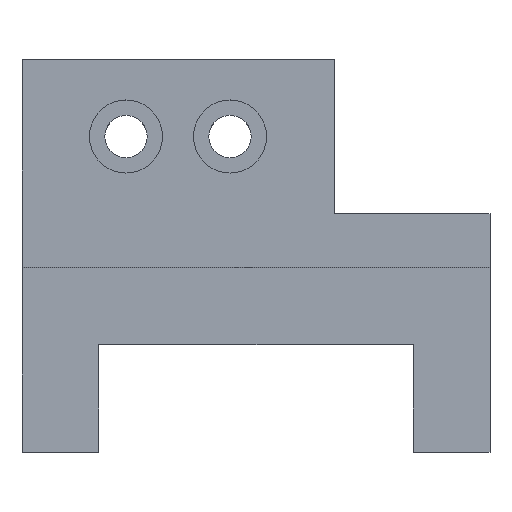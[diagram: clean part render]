
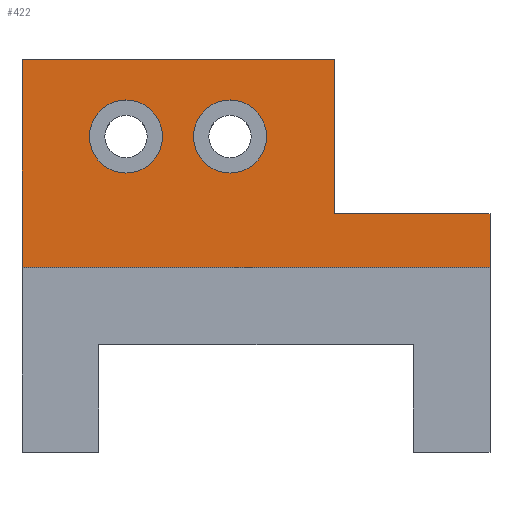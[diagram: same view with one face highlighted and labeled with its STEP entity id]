
A CAD part, top view. The second image highlights one B-rep face of the part: STEP entity #422.
In plain terms, the highlighted planar face has unit normal (0, 0, 1).
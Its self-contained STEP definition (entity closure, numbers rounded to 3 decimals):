
#17=FACE_BOUND('',#75,.T.);
#18=FACE_BOUND('',#76,.T.);
#28=PLANE('',#467);
#49=FACE_OUTER_BOUND('',#74,.T.);
#74=EDGE_LOOP('',(#319,#320,#321,#322,#323,#324));
#75=EDGE_LOOP('',(#325));
#76=EDGE_LOOP('',(#326));
#102=LINE('',#634,#147);
#106=LINE('',#642,#151);
#107=LINE('',#644,#152);
#108=LINE('',#646,#153);
#109=LINE('',#648,#154);
#110=LINE('',#649,#155);
#147=VECTOR('',#523,10.);
#151=VECTOR('',#529,10.);
#152=VECTOR('',#530,10.);
#153=VECTOR('',#531,10.);
#154=VECTOR('',#532,10.);
#155=VECTOR('',#533,10.);
#188=CIRCLE('',#453,4.75);
#191=CIRCLE('',#458,4.75);
#200=VERTEX_POINT('',#606);
#203=VERTEX_POINT('',#615);
#208=VERTEX_POINT('',#632);
#209=VERTEX_POINT('',#633);
#212=VERTEX_POINT('',#641);
#213=VERTEX_POINT('',#643);
#214=VERTEX_POINT('',#645);
#215=VERTEX_POINT('',#647);
#238=EDGE_CURVE('',#200,#200,#188,.T.);
#242=EDGE_CURVE('',#203,#203,#191,.T.);
#250=EDGE_CURVE('',#208,#209,#102,.T.);
#254=EDGE_CURVE('',#212,#208,#106,.T.);
#255=EDGE_CURVE('',#213,#209,#107,.T.);
#256=EDGE_CURVE('',#214,#213,#108,.T.);
#257=EDGE_CURVE('',#214,#215,#109,.T.);
#258=EDGE_CURVE('',#215,#212,#110,.T.);
#319=ORIENTED_EDGE('',*,*,#254,.T.);
#320=ORIENTED_EDGE('',*,*,#250,.T.);
#321=ORIENTED_EDGE('',*,*,#255,.F.);
#322=ORIENTED_EDGE('',*,*,#256,.F.);
#323=ORIENTED_EDGE('',*,*,#257,.T.);
#324=ORIENTED_EDGE('',*,*,#258,.T.);
#325=ORIENTED_EDGE('',*,*,#238,.T.);
#326=ORIENTED_EDGE('',*,*,#242,.T.);
#422=ADVANCED_FACE('',(#49,#17,#18),#28,.T.);
#453=AXIS2_PLACEMENT_3D('',#607,#491,#492);
#458=AXIS2_PLACEMENT_3D('',#616,#502,#503);
#467=AXIS2_PLACEMENT_3D('',#640,#527,#528);
#491=DIRECTION('center_axis',(0.,0.,-1.));
#492=DIRECTION('ref_axis',(1.,0.,0.));
#502=DIRECTION('center_axis',(0.,0.,-1.));
#503=DIRECTION('ref_axis',(1.,0.,0.));
#523=DIRECTION('',(0.,1.,0.));
#527=DIRECTION('center_axis',(0.,0.,1.));
#528=DIRECTION('ref_axis',(1.,0.,0.));
#529=DIRECTION('',(-1.,0.,0.));
#530=DIRECTION('',(1.,0.,0.));
#531=DIRECTION('',(0.,1.,0.));
#532=DIRECTION('',(1.,0.,0.));
#533=DIRECTION('',(0.,1.,0.));
#606=CARTESIAN_POINT('',(-21.64,41.,19.));
#607=CARTESIAN_POINT('Origin',(-16.89,41.,19.));
#615=CARTESIAN_POINT('',(-8.127,41.,19.));
#616=CARTESIAN_POINT('Origin',(-3.377,41.,19.));
#632=CARTESIAN_POINT('',(10.133,31.,19.));
#633=CARTESIAN_POINT('',(10.133,51.,19.));
#634=CARTESIAN_POINT('',(10.133,39.25,19.));
#640=CARTESIAN_POINT('Origin',(0.,27.5,19.));
#641=CARTESIAN_POINT('',(30.4,31.,19.));
#642=CARTESIAN_POINT('',(5.067,31.,19.));
#643=CARTESIAN_POINT('',(-30.4,51.,19.));
#644=CARTESIAN_POINT('',(-30.4,51.,19.));
#645=CARTESIAN_POINT('',(-30.4,24.,19.));
#646=CARTESIAN_POINT('',(-30.4,31.,19.));
#647=CARTESIAN_POINT('',(30.4,24.,19.));
#648=CARTESIAN_POINT('',(33.,24.,19.));
#649=CARTESIAN_POINT('',(30.4,0.,19.));
